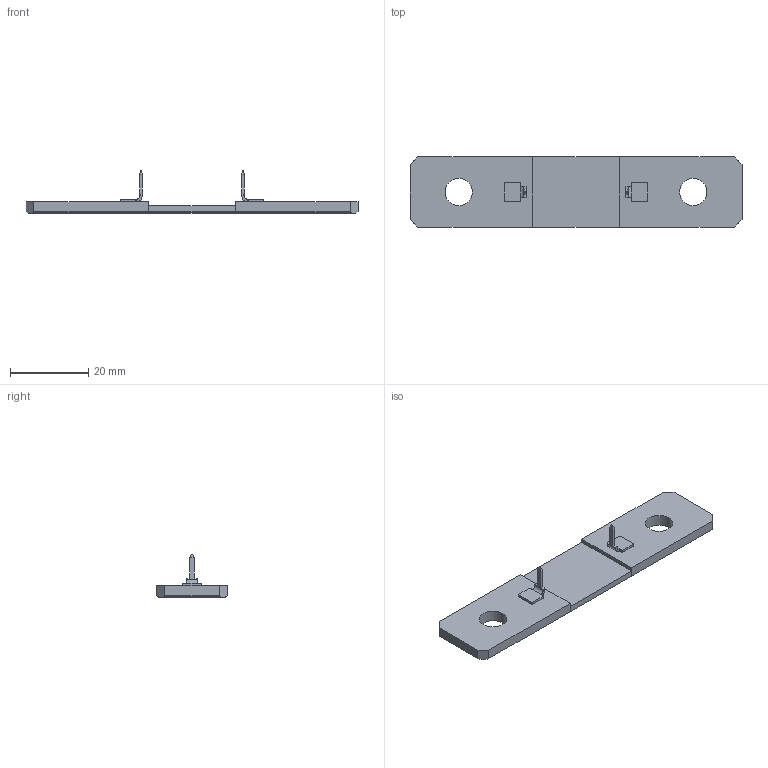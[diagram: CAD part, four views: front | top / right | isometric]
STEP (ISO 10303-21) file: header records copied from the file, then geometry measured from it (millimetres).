
FILE_DESCRIPTION (( 'STEP AP203' ), '1' );
FILE_NAME ('wsbs 8518 250 micro.. Ohms.STEP', '2016-12-29T17:13:27', ( '' ), ( '' ), 'SwSTEP 2.0', 'SolidWorks 2016', '' );
FILE_SCHEMA (( 'CONFIG_CONTROL_DESIGN' ));
Length unit declared in the file: millimetre
Products named in the file (6): WSBS8518 250 micro ohms SHUNT; SHUNT TERMINAL - VISHAY; WSBS8518 250 micro ohms SHUNT_100 microohm; wsbs 8518 250 micro.. Ohms
Assembly tree (3 placements, depth 2):
  WSBS8518 250 micro ohms SHUNT
  SHUNT TERMINAL - VISHAY
  SHUNT TERMINAL - VISHAY
  wsbs 8518 250 micro.. Ohms
    WSBS8518 250 micro ohms SHUNT_100 microohm
    SHUNT TERMINAL - VISHAY  x2
Bounding box: 84.99 x 17.98 x 11 mm (x, y, z)
Volume: 3935.7 mm3; surface area: 3732.9 mm2
Topology: 3 solids, 3 shells, 104 faces, 272 edges, 176 vertices
Faces by surface type: plane 64, cylinder 32, bspline 8
Entity records: 2741 total; most frequent: CARTESIAN_POINT 545, ORIENTED_EDGE 356, DIRECTION 328, EDGE_CURVE 178, VERTEX_POINT 116, VECTOR 114, LINE 114, AXIS2_PLACEMENT_3D 107
